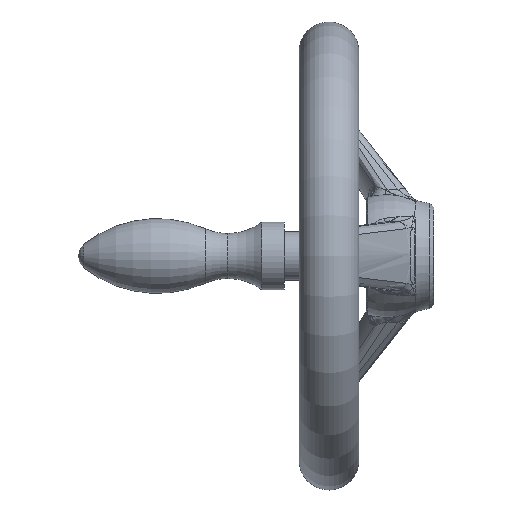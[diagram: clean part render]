
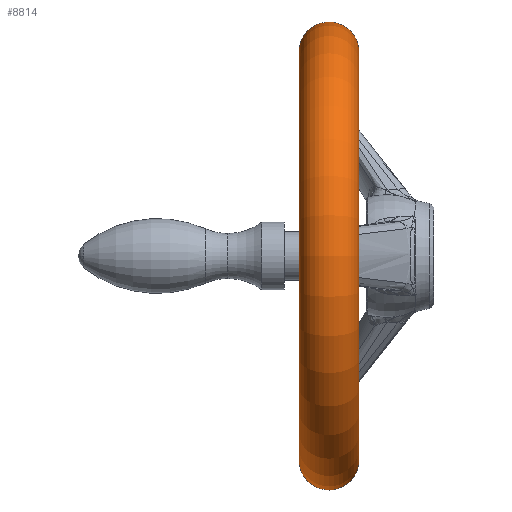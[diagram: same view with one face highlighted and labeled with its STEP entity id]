
A CAD part, left-side view. The second image highlights one B-rep face of the part: STEP entity #8814.
In plain terms, the highlighted toroidal (fillet/blend) face has major radius 54.483 mm and minor radius 8.017 mm.
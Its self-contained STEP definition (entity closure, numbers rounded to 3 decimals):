
#441 = DIRECTION ( 'NONE',  ( 0., 0., -1. ) ) ;
#491 = DIRECTION ( 'NONE',  ( 0., 0., -1. ) ) ;
#921 = VERTEX_POINT ( 'NONE', #1426 ) ;
#1338 = CARTESIAN_POINT ( 'NONE',  ( 0., 28., -54.483 ) ) ;
#1426 = CARTESIAN_POINT ( 'NONE',  ( 0., 20., -55. ) ) ;
#1801 = CARTESIAN_POINT ( 'NONE',  ( 0., 20., 55. ) ) ;
#2170 = DIRECTION ( 'NONE',  ( 0., 0., 1. ) ) ;
#2247 = CIRCLE ( 'NONE', #3334, 55. ) ;
#2346 = EDGE_CURVE ( 'NONE', #4712, #6048, #5481, .T. ) ;
#2419 = EDGE_CURVE ( 'NONE', #6048, #921, #5194, .T. ) ;
#2626 = TOROIDAL_SURFACE ( 'NONE', #4042, 54.483, 8.017 ) ;
#2716 = DIRECTION ( 'NONE',  ( 0., -1., 0. ) ) ;
#2773 = EDGE_LOOP ( 'NONE', ( #8239, #5113, #7475, #5736 ) ) ;
#3256 = CARTESIAN_POINT ( 'NONE',  ( 0., 36., 55. ) ) ;
#3334 = AXIS2_PLACEMENT_3D ( 'NONE', #3597, #9422, #4425 ) ;
#3597 = CARTESIAN_POINT ( 'NONE',  ( 0., 20., 0. ) ) ;
#3992 = AXIS2_PLACEMENT_3D ( 'NONE', #1338, #7161, #2170 ) ;
#4042 = AXIS2_PLACEMENT_3D ( 'NONE', #4402, #2716, #6908 ) ;
#4402 = CARTESIAN_POINT ( 'NONE',  ( 0., 28., 0. ) ) ;
#4425 = DIRECTION ( 'NONE',  ( 0., 0., -1. ) ) ;
#4601 = FACE_OUTER_BOUND ( 'NONE', #2773, .T. ) ;
#4712 = VERTEX_POINT ( 'NONE', #3256 ) ;
#5113 = ORIENTED_EDGE ( 'NONE', *, *, #2346, .T. ) ;
#5194 = CIRCLE ( 'NONE', #3992, 8.017 ) ;
#5290 = AXIS2_PLACEMENT_3D ( 'NONE', #10393, #5430, #441 ) ;
#5430 = DIRECTION ( 'NONE',  ( 0., -1., 0. ) ) ;
#5478 = DIRECTION ( 'NONE',  ( 1., 0., 0. ) ) ;
#5481 = CIRCLE ( 'NONE', #5290, 55. ) ;
#5570 = CARTESIAN_POINT ( 'NONE',  ( 0., 36., -55. ) ) ;
#5736 = ORIENTED_EDGE ( 'NONE', *, *, #8201, .F. ) ;
#6048 = VERTEX_POINT ( 'NONE', #5570 ) ;
#6499 = CIRCLE ( 'NONE', #7156, 8.017 ) ;
#6908 = DIRECTION ( 'NONE',  ( 0., 0., -1. ) ) ;
#6954 = EDGE_CURVE ( 'NONE', #4712, #10076, #6499, .T. ) ;
#7156 = AXIS2_PLACEMENT_3D ( 'NONE', #10460, #5478, #491 ) ;
#7161 = DIRECTION ( 'NONE',  ( -1., 0., 0. ) ) ;
#7475 = ORIENTED_EDGE ( 'NONE', *, *, #2419, .T. ) ;
#8201 = EDGE_CURVE ( 'NONE', #10076, #921, #2247, .T. ) ;
#8239 = ORIENTED_EDGE ( 'NONE', *, *, #6954, .F. ) ;
#8814 = ADVANCED_FACE ( 'NONE', ( #4601 ), #2626, .T. ) ;
#9422 = DIRECTION ( 'NONE',  ( 0., -1., 0. ) ) ;
#10076 = VERTEX_POINT ( 'NONE', #1801 ) ;
#10393 = CARTESIAN_POINT ( 'NONE',  ( 0., 36., 0. ) ) ;
#10460 = CARTESIAN_POINT ( 'NONE',  ( 0., 28., 54.483 ) ) ;
